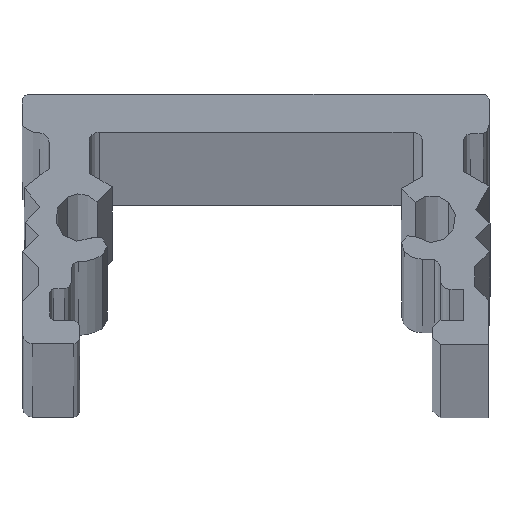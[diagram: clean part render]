
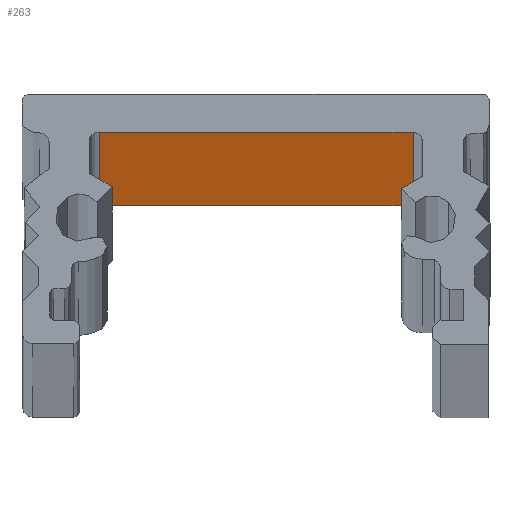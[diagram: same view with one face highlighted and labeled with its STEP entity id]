
A CAD part, top view. The second image highlights one B-rep face of the part: STEP entity #263.
In plain terms, the highlighted planar face has unit normal (0, -1, 0).
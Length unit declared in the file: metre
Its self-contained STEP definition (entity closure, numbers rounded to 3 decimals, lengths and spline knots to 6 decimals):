
#263=ADVANCED_FACE('4:12282',(#716),#717,.T.);
#716=FACE_OUTER_BOUND('',#1224,.T.);
#717=PLANE('',#1225);
#1224=EDGE_LOOP('',(#1946,#1947,#1948,#1949));
#1225=AXIS2_PLACEMENT_3D('',#1950,#1951,#1952);
#1946=ORIENTED_EDGE('',*,*,#2741,.T.);
#1947=ORIENTED_EDGE('',*,*,#2723,.T.);
#1948=ORIENTED_EDGE('',*,*,#2744,.F.);
#1949=ORIENTED_EDGE('',*,*,#2745,.T.);
#1950=CARTESIAN_POINT('',(-0.013628,0.013608,0.0));
#1951=DIRECTION('',(-0.0,-1.0,-0.0));
#1952=DIRECTION('',(-1.0,0.0,0.0));
#2723=EDGE_CURVE('4:12525',#3083,#3081,#3084,.F.);
#2741=EDGE_CURVE('4:12519',#3109,#3083,#3110,.T.);
#2744=EDGE_CURVE('4:12528',#3113,#3081,#3114,.T.);
#2745=EDGE_CURVE('4:12531',#3113,#3109,#3115,.T.);
#3081=VERTEX_POINT('',#3556);
#3083=VERTEX_POINT('',#3558);
#3084=LINE('',#3559,#3560);
#3109=VERTEX_POINT('',#3595);
#3110=LINE('',#3596,#3597);
#3113=VERTEX_POINT('',#3600);
#3114=LINE('',#3601,#3602);
#3115=LINE('',#3603,#3604);
#3556=CARTESIAN_POINT('',(-0.008047,0.013608,-1.5));
#3558=CARTESIAN_POINT('',(-0.019209,0.013608,-1.5));
#3559=CARTESIAN_POINT('',(-0.009586,0.013608,-1.5));
#3560=VECTOR('',#4081,1.0);
#3595=CARTESIAN_POINT('',(-0.019209,0.013608,0.0));
#3596=CARTESIAN_POINT('',(-0.019209,0.013608,0.0));
#3597=VECTOR('',#4098,1.0);
#3600=CARTESIAN_POINT('',(-0.008047,0.013608,0.0));
#3601=CARTESIAN_POINT('',(-0.008047,0.013608,0.0));
#3602=VECTOR('',#4102,1.0);
#3603=CARTESIAN_POINT('',(-0.008047,0.013608,0.0));
#3604=VECTOR('',#4103,1.0);
#4081=DIRECTION('',(-1.0,0.0,0.0));
#4098=DIRECTION('',(0.0,0.0,-1.0));
#4102=DIRECTION('',(0.0,0.0,-1.0));
#4103=DIRECTION('',(-1.0,0.0,0.0));
